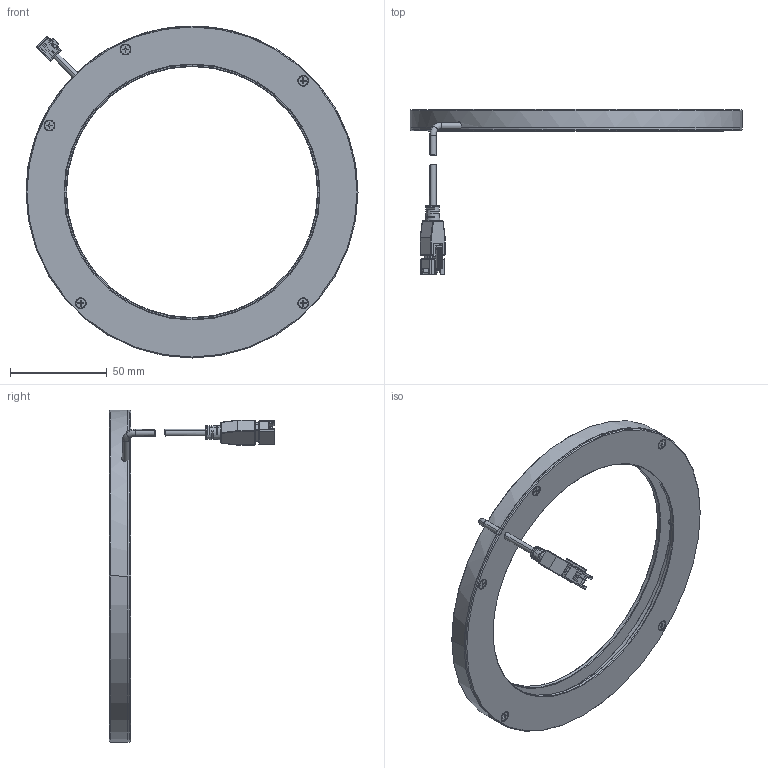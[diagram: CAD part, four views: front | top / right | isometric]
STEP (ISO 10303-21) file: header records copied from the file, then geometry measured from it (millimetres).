
FILE_DESCRIPTION((''),'2;1');
FILE_NAME('MV-LRDS-172-0_ASM','2019-09-19T',('rs-zhongwm'),(''),'PRO/ENGINEER BY PARAMETRIC TECHNOLOGY CORPORATION, 2010100','PRO/ENGINEER BY PARAMETRIC TECHNOLOGY CORPORATION, 2010100','');
FILE_SCHEMA(('CONFIG_CONTROL_DESIGN'));
Length unit declared in the file: millimetre
Products named in the file (8): P-RL-172-00-001_5; P-RL-172-00-002_3; P-RL-172-00-PCB_1; LINE_TOU__1; BODY_12__1; XIANLAN_ASM_1_ASM; M3X5-SHIZHI_2; MV-LRDS-172-0_ASM
Assembly tree (11 placements, depth 3):
  MV-LRDS-172-0_ASM
    P-RL-172-00-001_5
    P-RL-172-00-002_3
    P-RL-172-00-PCB_1
    XIANLAN_ASM_1_ASM
      LINE_TOU__1
      BODY_12__1
    M3X5-SHIZHI_2  x5
Bounding box: 172 x 85.6 x 172 mm (x, y, z)
Volume: 73718.5 mm3; surface area: 61435.9 mm2
Topology: 10 solids, 10 shells, 458 faces, 1157 edges, 717 vertices
Faces by surface type: plane 218, cylinder 156, cone 52, torus 12, bspline 10, sphere 10
Entity records: 11342 total; most frequent: CARTESIAN_POINT 2492, DIRECTION 1889, ORIENTED_EDGE 1762, EDGE_CURVE 881, AXIS2_PLACEMENT_3D 685, VERTEX_POINT 557, VECTOR 519, LINE 519
